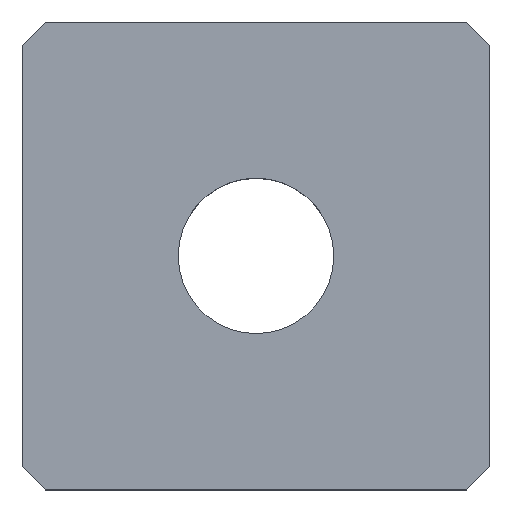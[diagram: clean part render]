
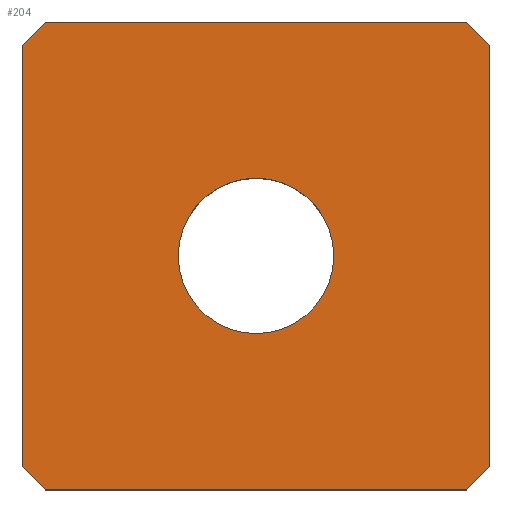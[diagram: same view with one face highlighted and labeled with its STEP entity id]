
A CAD part, top view. The second image highlights one B-rep face of the part: STEP entity #204.
In plain terms, the highlighted planar face has unit normal (0, 0, 1).
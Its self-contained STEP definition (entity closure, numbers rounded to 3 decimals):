
#16=FACE_BOUND('',#33,.T.);
#18=CIRCLE('',#239,3.324);
#21=FACE_OUTER_BOUND('',#32,.T.);
#32=EDGE_LOOP('',(#143,#144,#145,#146,#147,#148,#149,#150));
#33=EDGE_LOOP('',(#151));
#44=LINE('',#307,#69);
#48=LINE('',#315,#73);
#49=LINE('',#317,#74);
#50=LINE('',#319,#75);
#51=LINE('',#321,#76);
#52=LINE('',#323,#77);
#53=LINE('',#325,#78);
#54=LINE('',#326,#79);
#69=VECTOR('',#254,10.);
#73=VECTOR('',#260,10.);
#74=VECTOR('',#261,10.);
#75=VECTOR('',#262,10.);
#76=VECTOR('',#263,10.);
#77=VECTOR('',#264,10.);
#78=VECTOR('',#265,10.);
#79=VECTOR('',#266,10.);
#94=VERTEX_POINT('',#305);
#95=VERTEX_POINT('',#306);
#98=VERTEX_POINT('',#314);
#99=VERTEX_POINT('',#316);
#100=VERTEX_POINT('',#318);
#101=VERTEX_POINT('',#320);
#102=VERTEX_POINT('',#322);
#103=VERTEX_POINT('',#324);
#104=VERTEX_POINT('',#327);
#112=EDGE_CURVE('',#94,#95,#44,.T.);
#116=EDGE_CURVE('',#98,#94,#48,.T.);
#117=EDGE_CURVE('',#99,#98,#49,.T.);
#118=EDGE_CURVE('',#100,#99,#50,.T.);
#119=EDGE_CURVE('',#101,#100,#51,.T.);
#120=EDGE_CURVE('',#102,#101,#52,.T.);
#121=EDGE_CURVE('',#103,#102,#53,.T.);
#122=EDGE_CURVE('',#95,#103,#54,.T.);
#123=EDGE_CURVE('',#104,#104,#18,.T.);
#143=ORIENTED_EDGE('',*,*,#112,.F.);
#144=ORIENTED_EDGE('',*,*,#116,.F.);
#145=ORIENTED_EDGE('',*,*,#117,.F.);
#146=ORIENTED_EDGE('',*,*,#118,.F.);
#147=ORIENTED_EDGE('',*,*,#119,.F.);
#148=ORIENTED_EDGE('',*,*,#120,.F.);
#149=ORIENTED_EDGE('',*,*,#121,.F.);
#150=ORIENTED_EDGE('',*,*,#122,.F.);
#151=ORIENTED_EDGE('',*,*,#123,.T.);
#194=PLANE('',#238);
#204=ADVANCED_FACE('',(#21,#16),#194,.T.);
#238=AXIS2_PLACEMENT_3D('',#313,#258,#259);
#239=AXIS2_PLACEMENT_3D('',#328,#267,#268);
#254=DIRECTION('',(0.707,-0.707,0.));
#258=DIRECTION('center_axis',(0.,0.,1.));
#259=DIRECTION('ref_axis',(1.,0.,0.));
#260=DIRECTION('',(1.,0.,0.));
#261=DIRECTION('',(0.707,0.707,0.));
#262=DIRECTION('',(0.,1.,0.));
#263=DIRECTION('',(-0.707,0.707,0.));
#264=DIRECTION('',(-1.,0.,0.));
#265=DIRECTION('',(-0.707,-0.707,0.));
#266=DIRECTION('',(0.,-1.,0.));
#267=DIRECTION('center_axis',(0.,0.,-1.));
#268=DIRECTION('ref_axis',(1.,0.,0.));
#305=CARTESIAN_POINT('',(19.,20.,5.));
#306=CARTESIAN_POINT('',(20.,19.,5.));
#307=CARTESIAN_POINT('',(19.5,19.5,5.));
#313=CARTESIAN_POINT('Origin',(10.,10.,5.));
#314=CARTESIAN_POINT('',(1.,20.,5.));
#315=CARTESIAN_POINT('',(20.,20.,5.));
#316=CARTESIAN_POINT('',(0.,19.,5.));
#317=CARTESIAN_POINT('',(0.5,19.5,5.));
#318=CARTESIAN_POINT('',(0.,1.,5.));
#319=CARTESIAN_POINT('',(0.,20.,5.));
#320=CARTESIAN_POINT('',(1.,0.,5.));
#321=CARTESIAN_POINT('',(0.5,0.5,5.));
#322=CARTESIAN_POINT('',(19.,0.,5.));
#323=CARTESIAN_POINT('',(0.,0.,5.));
#324=CARTESIAN_POINT('',(20.,1.,5.));
#325=CARTESIAN_POINT('',(19.5,0.5,5.));
#326=CARTESIAN_POINT('',(20.,0.,5.));
#327=CARTESIAN_POINT('',(6.677,10.,5.));
#328=CARTESIAN_POINT('Origin',(10.,10.,5.));
